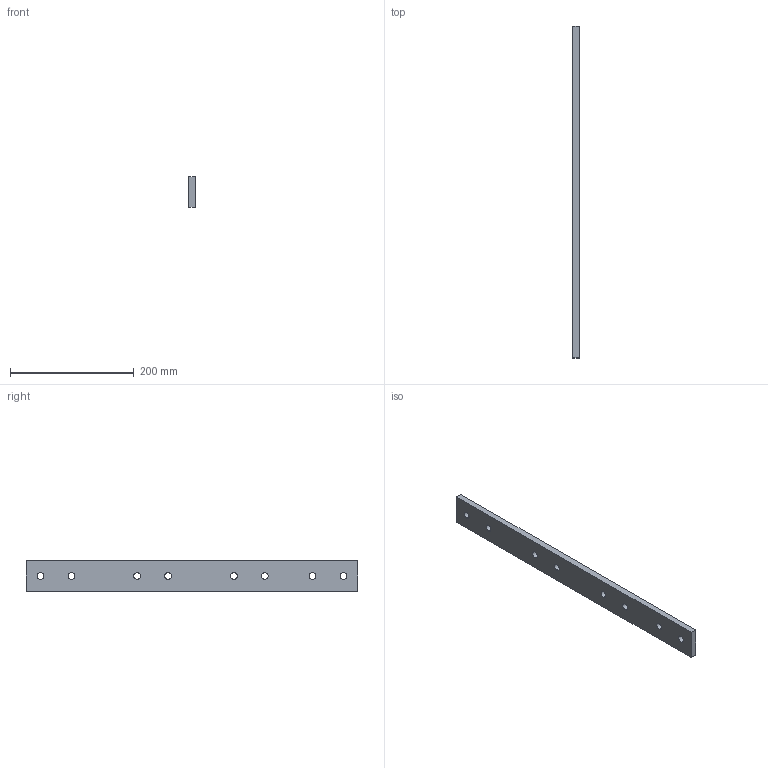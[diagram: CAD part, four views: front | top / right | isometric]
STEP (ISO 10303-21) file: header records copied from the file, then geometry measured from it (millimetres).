
FILE_DESCRIPTION (( 'STEP AP214' ), '1' );
FILE_NAME ('FO-00-DISB-200-005-001 Ïðîñòàâêà äèýëåêòðè÷åñêàÿ ïðîìåæóòî÷íàÿ ñáîðíûõ øèí 2000õ50õ10.STEP', '2025-08-19T12:56:22', ( '' ), ( '' ), 'SwSTEP 2.0', 'SolidWorks 2023', '' );
FILE_SCHEMA (( 'AUTOMOTIVE_DESIGN' ));
Length unit declared in the file: millimetre
Products named in the file (1): FO-00-DISB-200-005-001 Проставка диэлектрическая промежуточная сборных шин 2000х50х10
Bounding box: 10 x 537.5 x 50 mm (x, y, z)
Volume: 261147.3 mm3; surface area: 66744.1 mm2
Topology: 1 solids, 1 shells, 22 faces, 60 edges, 40 vertices
Faces by surface type: cylinder 16, plane 6
Entity records: 771 total; most frequent: DIRECTION 138, CARTESIAN_POINT 123, ORIENTED_EDGE 120, EDGE_CURVE 60, AXIS2_PLACEMENT_3D 55, VERTEX_POINT 40, EDGE_LOOP 38, CIRCLE 32
